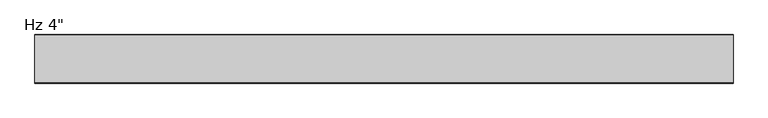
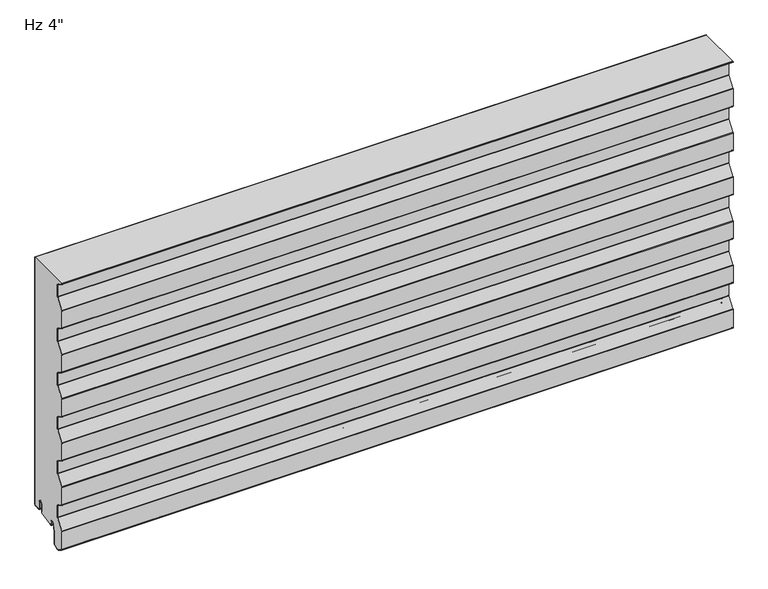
"""IFC4 building model written with IfcOpenShell, lengths in millimetres: plate geometry."""

from ifc_helpers import new_model, si_unit, point, frame, frame_2d, origin, place, context, project, spatial, polyline, circle_curve, trimmed, segment, composite_curve, outline, extrude, source, transform, mapped, element, save


def plate_16204ddc(model_context):
    return source(origin(), model_context, "Body", "SweptSolid", [
        extrude(outline(composite_curve([segment(polyline([(-100.8, 570.8938189), (-100.8, 571.2), (-0.8019381, 571.2), (-0.8019381, 2.3819944)]), True, "CONTINUOUS"), segment(trimmed(circle_curve(frame_2d((-2.3899344, 2.3819944)), 1.5879962), [point((-0.8019381, 2.3819944))], [point((-2.3899344, 0.7939981))], False, "CARTESIAN"), True, "CONTINUOUS"), segment(polyline([(-2.3899344, 0.7939981), (-15.0939043, 0.7939981)]), True, "CONTINUOUS"), segment(trimmed(circle_curve(frame_2d((-15.0939043, 2.3819944)), 1.5879962), [point((-15.0939043, 0.7939981))], [point((-16.6819006, 2.3819944))], False, "CARTESIAN"), True, "CONTINUOUS"), segment(polyline([(-16.6819006, 2.3819944), (-16.6819006, 18.2619569)]), True, "CONTINUOUS"), segment(trimmed(circle_curve(frame_2d((-21.4458893, 18.2619569)), 4.7639887), [point((-16.6819006, 18.2619569))], [point((-26.2098781, 18.2619569))], True, "CARTESIAN"), True, "CONTINUOUS"), segment(polyline([(-26.2098781, 18.2619569), (-26.2098781, -1.4125706), (-58.2178722, -8.4056498), (-58.7815025, -7.8420194), (-59.3820065, -8.4425234)]), True, "CONTINUOUS"), segment(trimmed(circle_curve(frame_2d((-59.9434479, -7.8810819)), 0.7939981), [point((-59.3820065, -8.4425234))], [point((-60.7374461, -7.8810819))], False, "CARTESIAN"), True, "CONTINUOUS"), segment(polyline([(-60.7374461, -7.8810819), (-60.7374461, 0.2459424)]), True, "CONTINUOUS"), segment(trimmed(circle_curve(frame_2d((-63.8816786, 0.2459424)), 3.1442326), [point((-60.7374461, 0.2459424))], [point((-63.8816786, 3.3901749))], True, "CARTESIAN"), True, "CONTINUOUS"), segment(polyline([(-63.8816786, 3.3901749), (-66.5435342, 3.3901749)]), True, "CONTINUOUS"), segment(trimmed(circle_curve(frame_2d((-66.5435342, 0.2459424)), 3.1442326), [point((-66.5435342, 3.3901749))], [point((-69.5775993, 1.0709558))], True, "CARTESIAN"), True, "CONTINUOUS"), segment(polyline([(-69.5775993, 1.0709558), (-74.3305203, -16.4083609)]), True, "CONTINUOUS"), segment(trimmed(circle_curve(frame_2d((-71.2964552, -17.2333743)), 3.1442326), [point((-74.3305203, -16.4083609))], [point((-74.4406877, -17.2333743))], True, "CARTESIAN"), True, "CONTINUOUS"), segment(polyline([(-74.4406877, -17.2333743), (-74.4406877, -44.4184897)]), True, "CONTINUOUS"), segment(trimmed(circle_curve(frame_2d((-76.8226821, -44.4184897)), 2.3819944), [point((-74.4406877, -44.4184897))], [point((-76.0079921, -46.6568323))], False, "CARTESIAN"), True, "CONTINUOUS"), segment(polyline([(-76.0079921, -46.6568323), (-84.8675857, -49.8814606)]), True, "CONTINUOUS"), segment(trimmed(circle_curve(frame_2d((-85.6822757, -47.6431181)), 2.3819944), [point((-84.8675857, -49.8814606))], [point((-86.9078017, -49.6856614))], False, "CARTESIAN"), True, "CONTINUOUS"), segment(polyline([(-86.9078017, -49.6856614), (-100.0290211, -41.8129298)]), True, "CONTINUOUS"), segment(trimmed(circle_curve(frame_2d((-99.2120038, -40.4512342)), 1.5879962), [point((-100.0290211, -41.8129298))], [point((-100.8, -40.4512342))], False, "CARTESIAN"), True, "CONTINUOUS"), segment(polyline([(-100.8, -40.4512342), (-100.8, 0.3073137)]), True, "CONTINUOUS"), segment(trimmed(circle_curve(frame_2d((-99.2120038, 0.3073137)), 1.5879962), [point((-100.8, 0.3073137))], [point((-100.5042095, 1.2303177))], False, "CARTESIAN"), True, "CONTINUOUS"), segment(polyline([(-100.5042095, 1.2303177), (-85.3578075, 22.4352804)]), True, "CONTINUOUS"), segment(trimmed(circle_curve(frame_2d((-87.270272, 23.8013265)), 2.3502344), [point((-85.3578075, 22.4352804))], [point((-84.9200375, 23.8013265))], True, "CARTESIAN"), True, "CONTINUOUS"), segment(polyline([(-84.9200375, 23.8013265), (-84.9200375, 50.9772534)]), True, "CONTINUOUS"), segment(trimmed(circle_curve(frame_2d((-87.270272, 50.9772534)), 2.3502344), [point((-84.9200375, 50.9772534))], [point((-86.0610863, 52.9925629))], True, "CARTESIAN"), True, "CONTINUOUS"), segment(polyline([(-86.0610863, 52.9925629), (-100.0290211, 61.3733237)]), True, "CONTINUOUS"), segment(trimmed(circle_curve(frame_2d((-99.2120038, 62.7350193)), 1.5879962), [point((-100.0290211, 61.3733237))], [point((-100.8, 62.7350193))], False, "CARTESIAN"), True, "CONTINUOUS"), segment(polyline([(-100.8, 62.7350193), (-100.8, 101.9390736)]), True, "CONTINUOUS"), segment(trimmed(circle_curve(frame_2d((-99.2120038, 101.9390736)), 1.5879962), [point((-100.8, 101.9390736))], [point((-100.5042095, 102.8620777))], False, "CARTESIAN"), True, "CONTINUOUS"), segment(polyline([(-100.5042095, 102.8620777), (-85.3578075, 124.0670404)]), True, "CONTINUOUS"), segment(trimmed(circle_curve(frame_2d((-87.270272, 125.4330864)), 2.3502344), [point((-85.3578075, 124.0670404))], [point((-84.9200375, 125.4330864))], True, "CARTESIAN"), True, "CONTINUOUS"), segment(polyline([(-84.9200375, 125.4330864), (-84.9200375, 152.6090134)]), True, "CONTINUOUS"), segment(trimmed(circle_curve(frame_2d((-87.270272, 152.6090134)), 2.3502344), [point((-84.9200375, 152.6090134))], [point((-86.0610863, 154.6243228))], True, "CARTESIAN"), True, "CONTINUOUS"), segment(polyline([(-86.0610863, 154.6243228), (-100.0290211, 163.0050836)]), True, "CONTINUOUS"), segment(trimmed(circle_curve(frame_2d((-99.2120038, 164.3667792)), 1.5879962), [point((-100.0290211, 163.0050836))], [point((-100.8, 164.3667792))], False, "CARTESIAN"), True, "CONTINUOUS"), segment(polyline([(-100.8, 164.3667792), (-100.8, 203.5708335)]), True, "CONTINUOUS"), segment(trimmed(circle_curve(frame_2d((-99.2120038, 203.5708335)), 1.5879962), [point((-100.8, 203.5708335))], [point((-100.5042095, 204.4938376))], False, "CARTESIAN"), True, "CONTINUOUS"), segment(polyline([(-100.5042095, 204.4938376), (-85.3578075, 225.6988003)]), True, "CONTINUOUS"), segment(trimmed(circle_curve(frame_2d((-87.270272, 227.0648463)), 2.3502344), [point((-85.3578075, 225.6988003))], [point((-84.9200375, 227.0648463))], True, "CARTESIAN"), True, "CONTINUOUS"), segment(polyline([(-84.9200375, 227.0648463), (-84.9200375, 254.2407733)]), True, "CONTINUOUS"), segment(trimmed(circle_curve(frame_2d((-87.270272, 254.2407733)), 2.3502344), [point((-84.9200375, 254.2407733))], [point((-86.0610863, 256.2560827))], True, "CARTESIAN"), True, "CONTINUOUS"), segment(polyline([(-86.0610863, 256.2560827), (-100.0290211, 264.6368436)]), True, "CONTINUOUS"), segment(trimmed(circle_curve(frame_2d((-99.2120038, 265.9985391)), 1.5879962), [point((-100.0290211, 264.6368436))], [point((-100.8, 265.9985391))], False, "CARTESIAN"), True, "CONTINUOUS"), segment(polyline([(-100.8, 265.9985391), (-100.8, 305.2025934)]), True, "CONTINUOUS"), segment(trimmed(circle_curve(frame_2d((-99.2120038, 305.2025934)), 1.5879962), [point((-100.8, 305.2025934))], [point((-100.5042095, 306.1255975))], False, "CARTESIAN"), True, "CONTINUOUS"), segment(polyline([(-100.5042095, 306.1255975), (-85.3578075, 327.3305602)]), True, "CONTINUOUS"), segment(trimmed(circle_curve(frame_2d((-87.270272, 328.6966062)), 2.3502344), [point((-85.3578075, 327.3305602))], [point((-84.9200375, 328.6966062))], True, "CARTESIAN"), True, "CONTINUOUS"), segment(polyline([(-84.9200375, 328.6966062), (-84.9200375, 355.8725332)]), True, "CONTINUOUS"), segment(trimmed(circle_curve(frame_2d((-87.270272, 355.8725332)), 2.3502344), [point((-84.9200375, 355.8725332))], [point((-86.0610863, 357.8878426))], True, "CARTESIAN"), True, "CONTINUOUS"), segment(polyline([(-86.0610863, 357.8878426), (-100.0290211, 366.2686035)]), True, "CONTINUOUS"), segment(trimmed(circle_curve(frame_2d((-99.2120038, 367.630299)), 1.5879962), [point((-100.0290211, 366.2686035))], [point((-100.8, 367.630299))], False, "CARTESIAN"), True, "CONTINUOUS"), segment(polyline([(-100.8, 367.630299), (-100.8, 406.8343534)]), True, "CONTINUOUS"), segment(trimmed(circle_curve(frame_2d((-99.2120038, 406.8343534)), 1.5879962), [point((-100.8, 406.8343534))], [point((-100.5042095, 407.7573574))], False, "CARTESIAN"), True, "CONTINUOUS"), segment(polyline([(-100.5042095, 407.7573574), (-85.3578075, 428.9623201)]), True, "CONTINUOUS"), segment(trimmed(circle_curve(frame_2d((-87.270272, 430.3283662)), 2.3502344), [point((-85.3578075, 428.9623201))], [point((-84.9200375, 430.3283662))], True, "CARTESIAN"), True, "CONTINUOUS"), segment(polyline([(-84.9200375, 430.3283662), (-84.9200375, 457.5042931)]), True, "CONTINUOUS"), segment(trimmed(circle_curve(frame_2d((-87.270272, 457.5042931)), 2.3502344), [point((-84.9200375, 457.5042931))], [point((-86.0610863, 459.5196026))], True, "CARTESIAN"), True, "CONTINUOUS"), segment(polyline([(-86.0610863, 459.5196026), (-100.0290211, 467.9003634)]), True, "CONTINUOUS"), segment(trimmed(circle_curve(frame_2d((-99.2120038, 469.262059)), 1.5879962), [point((-100.0290211, 467.9003634))], [point((-100.8, 469.262059))], False, "CARTESIAN"), True, "CONTINUOUS"), segment(polyline([(-100.8, 469.262059), (-100.8, 508.4661133)]), True, "CONTINUOUS"), segment(trimmed(circle_curve(frame_2d((-99.2120038, 508.4661133)), 1.5879962), [point((-100.8, 508.4661133))], [point((-100.5042095, 509.3891174))], False, "CARTESIAN"), True, "CONTINUOUS"), segment(polyline([(-100.5042095, 509.3891174), (-85.3578075, 530.5940801)]), True, "CONTINUOUS"), segment(trimmed(circle_curve(frame_2d((-87.270272, 531.9601261)), 2.3502344), [point((-85.3578075, 530.5940801))], [point((-84.9200375, 531.9601261))], True, "CARTESIAN"), True, "CONTINUOUS"), segment(polyline([(-84.9200375, 531.9601261), (-84.9200375, 559.1360531)]), True, "CONTINUOUS"), segment(trimmed(circle_curve(frame_2d((-87.270272, 559.1360531)), 2.3502344), [point((-84.9200375, 559.1360531))], [point((-86.0610863, 561.1513625))], True, "CARTESIAN"), True, "CONTINUOUS"), segment(polyline([(-86.0610863, 561.1513625), (-100.0290211, 569.5321233)]), True, "CONTINUOUS"), segment(trimmed(circle_curve(frame_2d((-99.2120038, 570.8938189)), 1.5879962), [point((-100.0290211, 569.5321233))], [point((-100.8, 570.8938189))], False, "CARTESIAN"), True, "CONTINUOUS")], self_intersect=False)), frame((-730.0, 0.0, 0.0), z_axis=(1.0, 0.0, 0.0), x_axis=(0.0, 1.0, 0.0)), (0.0, 0.0, 1.0), 1460.0),
        extrude(outline(composite_curve([segment(polyline([(-0.7939981, 2.3819944), (-0.7939981, 571.2), (0.0, 571.2), (0.0, 2.3819944)]), True, "CONTINUOUS"), segment(trimmed(circle_curve(frame_2d((-2.3819944, 2.3819944)), 2.3819944), [point((0.0, 2.3819944))], [point((-2.3819944, 0.0))], False, "CARTESIAN"), True, "CONTINUOUS"), segment(polyline([(-2.3819944, 0.0), (-15.0859644, 0.0)]), True, "CONTINUOUS"), segment(trimmed(circle_curve(frame_2d((-15.0859644, 2.3819944)), 2.3819944), [point((-15.0859644, 0.0))], [point((-17.4679587, 2.3819944))], False, "CARTESIAN"), True, "CONTINUOUS"), segment(polyline([(-17.4679587, 2.3819944), (-17.4679587, 18.2619569)]), True, "CONTINUOUS"), segment(trimmed(circle_curve(frame_2d((-21.4379494, 18.2619569)), 3.9699906), [point((-17.4679587, 18.2619569))], [point((-25.40794, 18.2619569))], True, "CARTESIAN"), True, "CONTINUOUS"), segment(polyline([(-25.40794, 18.2619569), (-25.40794, 0.0), (-26.2019381, 0.0), (-26.2019381, 18.2619569)]), True, "CONTINUOUS"), segment(trimmed(circle_curve(frame_2d((-21.4379494, 18.2619569)), 4.7639887), [point((-26.2019381, 18.2619569))], [point((-16.6739606, 18.2619569))], False, "CARTESIAN"), True, "CONTINUOUS"), segment(polyline([(-16.6739606, 18.2619569), (-16.6739606, 2.3819944)]), True, "CONTINUOUS"), segment(trimmed(circle_curve(frame_2d((-15.0859644, 2.3819944)), 1.5879962), [point((-16.6739606, 2.3819944))], [point((-15.0859644, 0.7939981))], True, "CARTESIAN"), True, "CONTINUOUS"), segment(polyline([(-15.0859644, 0.7939981), (-2.3819944, 0.7939981)]), True, "CONTINUOUS"), segment(trimmed(circle_curve(frame_2d((-2.3819944, 2.3819944)), 1.5879962), [point((-2.3819944, 0.7939981))], [point((-0.7939981, 2.3819944))], True, "CARTESIAN"), True, "CONTINUOUS")], self_intersect=False)), frame((-730.0, 0.0, 0.0), z_axis=(1.0, 0.0, 0.0), x_axis=(0.0, 1.0, 0.0)), (0.0, 0.0, 1.0), 1460.0),
        extrude(outline(composite_curve([segment(polyline([(-101.6, 570.8938189), (-101.6, 571.2), (-100.8, 571.2), (-100.8, 570.8938189)]), True, "CONTINUOUS"), segment(trimmed(circle_curve(frame_2d((-99.2120038, 570.8938189)), 1.5879962), [point((-100.8, 570.8938189))], [point((-100.0290211, 569.5321233))], True, "CARTESIAN"), True, "CONTINUOUS"), segment(polyline([(-100.0290211, 569.5321233), (-86.0610863, 561.1513625)]), True, "CONTINUOUS"), segment(trimmed(circle_curve(frame_2d((-87.270272, 559.1360531)), 2.3502344), [point((-86.0610863, 561.1513625))], [point((-84.9200375, 559.1360531))], False, "CARTESIAN"), True, "CONTINUOUS"), segment(polyline([(-84.9200375, 559.1360531), (-84.9200375, 531.9601261)]), True, "CONTINUOUS"), segment(trimmed(circle_curve(frame_2d((-87.270272, 531.9601261)), 2.3502344), [point((-84.9200375, 531.9601261))], [point((-85.3578075, 530.5940801))], False, "CARTESIAN"), True, "CONTINUOUS"), segment(polyline([(-85.3578075, 530.5940801), (-100.5042095, 509.3891174)]), True, "CONTINUOUS"), segment(trimmed(circle_curve(frame_2d((-99.2120038, 508.4661133)), 1.5879962), [point((-100.5042095, 509.3891174))], [point((-100.8, 508.4661133))], True, "CARTESIAN"), True, "CONTINUOUS"), segment(polyline([(-100.8, 508.4661133), (-100.8, 469.262059)]), True, "CONTINUOUS"), segment(trimmed(circle_curve(frame_2d((-99.2120038, 469.262059)), 1.5879962), [point((-100.8, 469.262059))], [point((-100.0290211, 467.9003634))], True, "CARTESIAN"), True, "CONTINUOUS"), segment(polyline([(-100.0290211, 467.9003634), (-86.0610863, 459.5196026)]), True, "CONTINUOUS"), segment(trimmed(circle_curve(frame_2d((-87.270272, 457.5042931)), 2.3502344), [point((-86.0610863, 459.5196026))], [point((-84.9200375, 457.5042931))], False, "CARTESIAN"), True, "CONTINUOUS"), segment(polyline([(-84.9200375, 457.5042931), (-84.9200375, 430.3283662)]), True, "CONTINUOUS"), segment(trimmed(circle_curve(frame_2d((-87.270272, 430.3283662)), 2.3502344), [point((-84.9200375, 430.3283662))], [point((-85.3578075, 428.9623201))], False, "CARTESIAN"), True, "CONTINUOUS"), segment(polyline([(-85.3578075, 428.9623201), (-100.5042095, 407.7573574)]), True, "CONTINUOUS"), segment(trimmed(circle_curve(frame_2d((-99.2120038, 406.8343534)), 1.5879962), [point((-100.5042095, 407.7573574))], [point((-100.8, 406.8343534))], True, "CARTESIAN"), True, "CONTINUOUS"), segment(polyline([(-100.8, 406.8343534), (-100.8, 367.630299)]), True, "CONTINUOUS"), segment(trimmed(circle_curve(frame_2d((-99.2120038, 367.630299)), 1.5879962), [point((-100.8, 367.630299))], [point((-100.0290211, 366.2686035))], True, "CARTESIAN"), True, "CONTINUOUS"), segment(polyline([(-100.0290211, 366.2686035), (-86.0610863, 357.8878426)]), True, "CONTINUOUS"), segment(trimmed(circle_curve(frame_2d((-87.270272, 355.8725332)), 2.3502344), [point((-86.0610863, 357.8878426))], [point((-84.9200375, 355.8725332))], False, "CARTESIAN"), True, "CONTINUOUS"), segment(polyline([(-84.9200375, 355.8725332), (-84.9200375, 328.6966062)]), True, "CONTINUOUS"), segment(trimmed(circle_curve(frame_2d((-87.270272, 328.6966062)), 2.3502344), [point((-84.9200375, 328.6966062))], [point((-85.3578075, 327.3305602))], False, "CARTESIAN"), True, "CONTINUOUS"), segment(polyline([(-85.3578075, 327.3305602), (-100.5042095, 306.1255975)]), True, "CONTINUOUS"), segment(trimmed(circle_curve(frame_2d((-99.2120038, 305.2025934)), 1.5879962), [point((-100.5042095, 306.1255975))], [point((-100.8, 305.2025934))], True, "CARTESIAN"), True, "CONTINUOUS"), segment(polyline([(-100.8, 305.2025934), (-100.8, 265.9985391)]), True, "CONTINUOUS"), segment(trimmed(circle_curve(frame_2d((-99.2120038, 265.9985391)), 1.5879962), [point((-100.8, 265.9985391))], [point((-100.0290211, 264.6368436))], True, "CARTESIAN"), True, "CONTINUOUS"), segment(polyline([(-100.0290211, 264.6368436), (-86.0610863, 256.2560827)]), True, "CONTINUOUS"), segment(trimmed(circle_curve(frame_2d((-87.270272, 254.2407733)), 2.3502344), [point((-86.0610863, 256.2560827))], [point((-84.9200375, 254.2407733))], False, "CARTESIAN"), True, "CONTINUOUS"), segment(polyline([(-84.9200375, 254.2407733), (-84.9200375, 227.0648463)]), True, "CONTINUOUS"), segment(trimmed(circle_curve(frame_2d((-87.270272, 227.0648463)), 2.3502344), [point((-84.9200375, 227.0648463))], [point((-85.3578075, 225.6988003))], False, "CARTESIAN"), True, "CONTINUOUS"), segment(polyline([(-85.3578075, 225.6988003), (-100.5042095, 204.4938376)]), True, "CONTINUOUS"), segment(trimmed(circle_curve(frame_2d((-99.2120038, 203.5708335)), 1.5879962), [point((-100.5042095, 204.4938376))], [point((-100.8, 203.5708335))], True, "CARTESIAN"), True, "CONTINUOUS"), segment(polyline([(-100.8, 203.5708335), (-100.8, 164.3667792)]), True, "CONTINUOUS"), segment(trimmed(circle_curve(frame_2d((-99.2120038, 164.3667792)), 1.5879962), [point((-100.8, 164.3667792))], [point((-100.0290211, 163.0050836))], True, "CARTESIAN"), True, "CONTINUOUS"), segment(polyline([(-100.0290211, 163.0050836), (-86.0610863, 154.6243228)]), True, "CONTINUOUS"), segment(trimmed(circle_curve(frame_2d((-87.270272, 152.6090134)), 2.3502344), [point((-86.0610863, 154.6243228))], [point((-84.9200375, 152.6090134))], False, "CARTESIAN"), True, "CONTINUOUS"), segment(polyline([(-84.9200375, 152.6090134), (-84.9200375, 125.4330864)]), True, "CONTINUOUS"), segment(trimmed(circle_curve(frame_2d((-87.270272, 125.4330864)), 2.3502344), [point((-84.9200375, 125.4330864))], [point((-85.3578075, 124.0670404))], False, "CARTESIAN"), True, "CONTINUOUS"), segment(polyline([(-85.3578075, 124.0670404), (-100.5042095, 102.8620777)]), True, "CONTINUOUS"), segment(trimmed(circle_curve(frame_2d((-99.2120038, 101.9390736)), 1.5879962), [point((-100.5042095, 102.8620777))], [point((-100.8, 101.9390736))], True, "CARTESIAN"), True, "CONTINUOUS"), segment(polyline([(-100.8, 101.9390736), (-100.8, 62.7350193)]), True, "CONTINUOUS"), segment(trimmed(circle_curve(frame_2d((-99.2120038, 62.7350193)), 1.5879962), [point((-100.8, 62.7350193))], [point((-100.0290211, 61.3733237))], True, "CARTESIAN"), True, "CONTINUOUS"), segment(polyline([(-100.0290211, 61.3733237), (-86.0610863, 52.9925629)]), True, "CONTINUOUS"), segment(trimmed(circle_curve(frame_2d((-87.270272, 50.9772534)), 2.3502344), [point((-86.0610863, 52.9925629))], [point((-84.9200375, 50.9772534))], False, "CARTESIAN"), True, "CONTINUOUS"), segment(polyline([(-84.9200375, 50.9772534), (-84.9200375, 23.8013265)]), True, "CONTINUOUS"), segment(trimmed(circle_curve(frame_2d((-87.270272, 23.8013265)), 2.3502344), [point((-84.9200375, 23.8013265))], [point((-85.3578075, 22.4352804))], False, "CARTESIAN"), True, "CONTINUOUS"), segment(polyline([(-85.3578075, 22.4352804), (-100.5042095, 1.2303177)]), True, "CONTINUOUS"), segment(trimmed(circle_curve(frame_2d((-99.2120038, 0.3073137)), 1.5879962), [point((-100.5042095, 1.2303177))], [point((-100.8, 0.3073137))], True, "CARTESIAN"), True, "CONTINUOUS"), segment(polyline([(-100.8, 0.3073137), (-100.8, -40.4512342)]), True, "CONTINUOUS"), segment(trimmed(circle_curve(frame_2d((-99.2120038, -40.4512342)), 1.5879962), [point((-100.8, -40.4512342))], [point((-100.0290211, -41.8129298))], True, "CARTESIAN"), True, "CONTINUOUS"), segment(polyline([(-100.0290211, -41.8129298), (-86.9078017, -49.6856614)]), True, "CONTINUOUS"), segment(trimmed(circle_curve(frame_2d((-85.6822757, -47.6431181)), 2.3819944), [point((-86.9078017, -49.6856614))], [point((-84.8675857, -49.8814606))], True, "CARTESIAN"), True, "CONTINUOUS"), segment(polyline([(-84.8675857, -49.8814606), (-76.0079921, -46.6568323)]), True, "CONTINUOUS"), segment(trimmed(circle_curve(frame_2d((-76.8226821, -44.4184897)), 2.3819944), [point((-76.0079921, -46.6568323))], [point((-74.4406877, -44.4184897))], True, "CARTESIAN"), True, "CONTINUOUS"), segment(polyline([(-74.4406877, -44.4184897), (-74.4406877, -17.2333743)]), True, "CONTINUOUS"), segment(trimmed(circle_curve(frame_2d((-71.2964552, -17.2333743)), 3.1442326), [point((-74.4406877, -17.2333743))], [point((-74.3305203, -16.4083609))], False, "CARTESIAN"), True, "CONTINUOUS"), segment(polyline([(-74.3305203, -16.4083609), (-69.5775993, 1.0709558)]), True, "CONTINUOUS"), segment(trimmed(circle_curve(frame_2d((-66.5435342, 0.2459424)), 3.1442326), [point((-69.5775993, 1.0709558))], [point((-66.5435342, 3.3901749))], False, "CARTESIAN"), True, "CONTINUOUS"), segment(polyline([(-66.5435342, 3.3901749), (-63.8816786, 3.3901749)]), True, "CONTINUOUS"), segment(trimmed(circle_curve(frame_2d((-63.8816786, 0.2459424)), 3.1442326), [point((-63.8816786, 3.3901749))], [point((-60.7374461, 0.2459424))], False, "CARTESIAN"), True, "CONTINUOUS"), segment(polyline([(-60.7374461, 0.2459424), (-60.7374461, -7.9201444)]), True, "CONTINUOUS"), segment(trimmed(circle_curve(frame_2d((-59.9434479, -7.9201444)), 0.7939981), [point((-60.7374461, -7.9201444))], [point((-59.3820065, -8.4815859))], True, "CARTESIAN"), True, "CONTINUOUS"), segment(polyline([(-59.3820065, -8.4815859), (-58.820565, -7.9201444), (-58.2548796, -8.4858299), (-58.8163211, -9.0472713)]), True, "CONTINUOUS"), segment(trimmed(circle_curve(frame_2d((-59.9434479, -7.9201444)), 1.5939981), [point((-58.8163211, -9.0472713))], [point((-61.5374461, -7.9201444))], False, "CARTESIAN"), True, "CONTINUOUS"), segment(polyline([(-61.5374461, -7.9201444), (-61.5374461, 0.2459424)]), True, "CONTINUOUS"), segment(trimmed(circle_curve(frame_2d((-63.8816786, 0.2459424)), 2.3442326), [point((-61.5374461, 0.2459424))], [point((-63.8816786, 2.5901749))], True, "CARTESIAN"), True, "CONTINUOUS"), segment(polyline([(-63.8816786, 2.5901749), (-66.5435342, 2.5901749)]), True, "CONTINUOUS"), segment(trimmed(circle_curve(frame_2d((-66.5435342, 0.2459424)), 2.3442326), [point((-66.5435342, 2.5901749))], [point((-68.8056297, 0.8610443))], True, "CARTESIAN"), True, "CONTINUOUS"), segment(polyline([(-68.8056297, 0.8610443), (-73.6406877, -16.9203393), (-73.6406877, -44.4184897)]), True, "CONTINUOUS"), segment(trimmed(circle_curve(frame_2d((-76.8226821, -44.4184897)), 3.1819944), [point((-73.6406877, -44.4184897))], [point((-75.7343759, -47.4085864))], False, "CARTESIAN"), True, "CONTINUOUS"), segment(polyline([(-75.7343759, -47.4085864), (-84.5939695, -50.6332147)]), True, "CONTINUOUS"), segment(trimmed(circle_curve(frame_2d((-85.6822757, -47.6431181)), 3.1819944), [point((-84.5939695, -50.6332147))], [point((-87.3193983, -50.3716558))], False, "CARTESIAN"), True, "CONTINUOUS"), segment(polyline([(-87.3193983, -50.3716558), (-100.4406177, -42.4989241)]), True, "CONTINUOUS"), segment(trimmed(circle_curve(frame_2d((-99.2120038, -40.4512342)), 2.3879962), [point((-100.4406177, -42.4989241))], [point((-101.6, -40.4512342))], False, "CARTESIAN"), True, "CONTINUOUS"), segment(polyline([(-101.6, -40.4512342), (-101.6, 0.3073137)]), True, "CONTINUOUS"), segment(trimmed(circle_curve(frame_2d((-99.2120038, 0.3073137)), 2.3879962), [point((-101.6, 0.3073137))], [point((-101.1551962, 1.6953083))], False, "CARTESIAN"), True, "CONTINUOUS"), segment(polyline([(-101.1551962, 1.6953083), (-86.0087943, 22.900271)]), True, "CONTINUOUS"), segment(trimmed(circle_curve(frame_2d((-87.270272, 23.8013265)), 1.5502344), [point((-86.0087943, 22.900271))], [point((-85.7200375, 23.8013265))], True, "CARTESIAN"), True, "CONTINUOUS"), segment(polyline([(-85.7200375, 23.8013265), (-85.7200375, 50.9772534)]), True, "CONTINUOUS"), segment(trimmed(circle_curve(frame_2d((-87.270272, 50.9772534)), 1.5502344), [point((-85.7200375, 50.9772534))], [point((-86.4726829, 52.3065685))], True, "CARTESIAN"), True, "CONTINUOUS"), segment(polyline([(-86.4726829, 52.3065685), (-100.4406177, 60.6873294)]), True, "CONTINUOUS"), segment(trimmed(circle_curve(frame_2d((-99.2120038, 62.7350193)), 2.3879962), [point((-100.4406177, 60.6873294))], [point((-101.6, 62.7350193))], False, "CARTESIAN"), True, "CONTINUOUS"), segment(polyline([(-101.6, 62.7350193), (-101.6, 101.9390736)]), True, "CONTINUOUS"), segment(trimmed(circle_curve(frame_2d((-99.2120038, 101.9390736)), 2.3879962), [point((-101.6, 101.9390736))], [point((-101.1551962, 103.3270682))], False, "CARTESIAN"), True, "CONTINUOUS"), segment(polyline([(-101.1551962, 103.3270682), (-86.0087943, 124.5320309)]), True, "CONTINUOUS"), segment(trimmed(circle_curve(frame_2d((-87.270272, 125.4330864)), 1.5502344), [point((-86.0087943, 124.5320309))], [point((-85.7200375, 125.4330864))], True, "CARTESIAN"), True, "CONTINUOUS"), segment(polyline([(-85.7200375, 125.4330864), (-85.7200375, 152.6090134)]), True, "CONTINUOUS"), segment(trimmed(circle_curve(frame_2d((-87.270272, 152.6090134)), 1.5502344), [point((-85.7200375, 152.6090134))], [point((-86.4726829, 153.9383284))], True, "CARTESIAN"), True, "CONTINUOUS"), segment(polyline([(-86.4726829, 153.9383284), (-100.4406177, 162.3190893)]), True, "CONTINUOUS"), segment(trimmed(circle_curve(frame_2d((-99.2120038, 164.3667792)), 2.3879962), [point((-100.4406177, 162.3190893))], [point((-101.6, 164.3667792))], False, "CARTESIAN"), True, "CONTINUOUS"), segment(polyline([(-101.6, 164.3667792), (-101.6, 203.5708335)]), True, "CONTINUOUS"), segment(trimmed(circle_curve(frame_2d((-99.2120038, 203.5708335)), 2.3879962), [point((-101.6, 203.5708335))], [point((-101.1551962, 204.9588281))], False, "CARTESIAN"), True, "CONTINUOUS"), segment(polyline([(-101.1551962, 204.9588281), (-86.0087943, 226.1637908)]), True, "CONTINUOUS"), segment(trimmed(circle_curve(frame_2d((-87.270272, 227.0648463)), 1.5502344), [point((-86.0087943, 226.1637908))], [point((-85.7200375, 227.0648463))], True, "CARTESIAN"), True, "CONTINUOUS"), segment(polyline([(-85.7200375, 227.0648463), (-85.7200375, 254.2407733)]), True, "CONTINUOUS"), segment(trimmed(circle_curve(frame_2d((-87.270272, 254.2407733)), 1.5502344), [point((-85.7200375, 254.2407733))], [point((-86.4726829, 255.5700884))], True, "CARTESIAN"), True, "CONTINUOUS"), segment(polyline([(-86.4726829, 255.5700884), (-100.4406177, 263.9508492)]), True, "CONTINUOUS"), segment(trimmed(circle_curve(frame_2d((-99.2120038, 265.9985391)), 2.3879962), [point((-100.4406177, 263.9508492))], [point((-101.6, 265.9985391))], False, "CARTESIAN"), True, "CONTINUOUS"), segment(polyline([(-101.6, 265.9985391), (-101.6, 305.2025934)]), True, "CONTINUOUS"), segment(trimmed(circle_curve(frame_2d((-99.2120038, 305.2025934)), 2.3879962), [point((-101.6, 305.2025934))], [point((-101.1551962, 306.5905881))], False, "CARTESIAN"), True, "CONTINUOUS"), segment(polyline([(-101.1551962, 306.5905881), (-86.0087943, 327.7955508)]), True, "CONTINUOUS"), segment(trimmed(circle_curve(frame_2d((-87.270272, 328.6966062)), 1.5502344), [point((-86.0087943, 327.7955508))], [point((-85.7200375, 328.6966062))], True, "CARTESIAN"), True, "CONTINUOUS"), segment(polyline([(-85.7200375, 328.6966062), (-85.7200375, 355.8725332)]), True, "CONTINUOUS"), segment(trimmed(circle_curve(frame_2d((-87.270272, 355.8725332)), 1.5502344), [point((-85.7200375, 355.8725332))], [point((-86.4726829, 357.2018483))], True, "CARTESIAN"), True, "CONTINUOUS"), segment(polyline([(-86.4726829, 357.2018483), (-100.4406177, 365.5826092)]), True, "CONTINUOUS"), segment(trimmed(circle_curve(frame_2d((-99.2120038, 367.630299)), 2.3879962), [point((-100.4406177, 365.5826092))], [point((-101.6, 367.630299))], False, "CARTESIAN"), True, "CONTINUOUS"), segment(polyline([(-101.6, 367.630299), (-101.6, 406.8343534)]), True, "CONTINUOUS"), segment(trimmed(circle_curve(frame_2d((-99.2120038, 406.8343534)), 2.3879962), [point((-101.6, 406.8343534))], [point((-101.1551962, 408.222348))], False, "CARTESIAN"), True, "CONTINUOUS"), segment(polyline([(-101.1551962, 408.222348), (-86.0087943, 429.4273107)]), True, "CONTINUOUS"), segment(trimmed(circle_curve(frame_2d((-87.270272, 430.3283662)), 1.5502344), [point((-86.0087943, 429.4273107))], [point((-85.7200375, 430.3283662))], True, "CARTESIAN"), True, "CONTINUOUS"), segment(polyline([(-85.7200375, 430.3283662), (-85.7200375, 457.5042931)]), True, "CONTINUOUS"), segment(trimmed(circle_curve(frame_2d((-87.270272, 457.5042931)), 1.5502344), [point((-85.7200375, 457.5042931))], [point((-86.4726829, 458.8336082))], True, "CARTESIAN"), True, "CONTINUOUS"), segment(polyline([(-86.4726829, 458.8336082), (-100.4406177, 467.2143691)]), True, "CONTINUOUS"), segment(trimmed(circle_curve(frame_2d((-99.2120038, 469.262059)), 2.3879962), [point((-100.4406177, 467.2143691))], [point((-101.6, 469.262059))], False, "CARTESIAN"), True, "CONTINUOUS"), segment(polyline([(-101.6, 469.262059), (-101.6, 508.4661133)]), True, "CONTINUOUS"), segment(trimmed(circle_curve(frame_2d((-99.2120038, 508.4661133)), 2.3879962), [point((-101.6, 508.4661133))], [point((-101.1551962, 509.8541079))], False, "CARTESIAN"), True, "CONTINUOUS"), segment(polyline([(-101.1551962, 509.8541079), (-86.0087943, 531.0590706)]), True, "CONTINUOUS"), segment(trimmed(circle_curve(frame_2d((-87.270272, 531.9601261)), 1.5502344), [point((-86.0087943, 531.0590706))], [point((-85.7200375, 531.9601261))], True, "CARTESIAN"), True, "CONTINUOUS"), segment(polyline([(-85.7200375, 531.9601261), (-85.7200375, 559.1360531)]), True, "CONTINUOUS"), segment(trimmed(circle_curve(frame_2d((-87.270272, 559.1360531)), 1.5502344), [point((-85.7200375, 559.1360531))], [point((-86.4726829, 560.4653681))], True, "CARTESIAN"), True, "CONTINUOUS"), segment(polyline([(-86.4726829, 560.4653681), (-100.4406177, 568.846129)]), True, "CONTINUOUS"), segment(trimmed(circle_curve(frame_2d((-99.2120038, 570.8938189)), 2.3879962), [point((-100.4406177, 568.846129))], [point((-101.6, 570.8938189))], False, "CARTESIAN"), True, "CONTINUOUS")], self_intersect=False)), frame((-730.0, 0.0, 0.0), z_axis=(1.0, 0.0, 0.0), x_axis=(0.0, 1.0, 0.0)), (0.0, 0.0, 1.0), 1460.0),
    ])


if __name__ == "__main__":
    model = new_model("IFC4")
    model_context = context("Model", 3, world=origin())
    ifc_project = project(units=[si_unit("LENGTHUNIT", "METRE", prefix="MILLI")], contexts=[model_context])
    site = spatial("IfcSite", under=ifc_project)
    building = spatial("IfcBuilding", under=site)
    placement = place(None, origin())
    plate_shape = plate_16204ddc(model_context)
    element("IfcPlate", 1, ObjectType="KIP-36-Vale-R19-CP-Hz : Hz 4\"", at=placement, inside=building, context=model_context, shape_type="MappedRepresentation", body=[
        mapped(plate_shape, transform((0.0, 0.0, 0.0), x_axis=(1.0, 0.0, 0.0), y_axis=(0.0, 1.0, 0.0), z_axis=(0.0, 0.0, 1.0))),
    ])
    save(model, "model.ifc")
